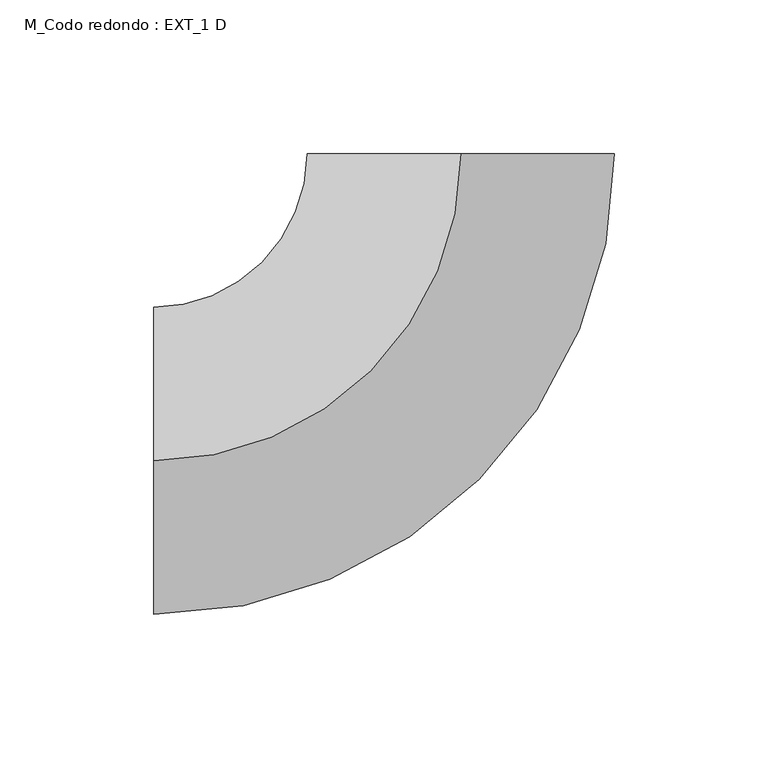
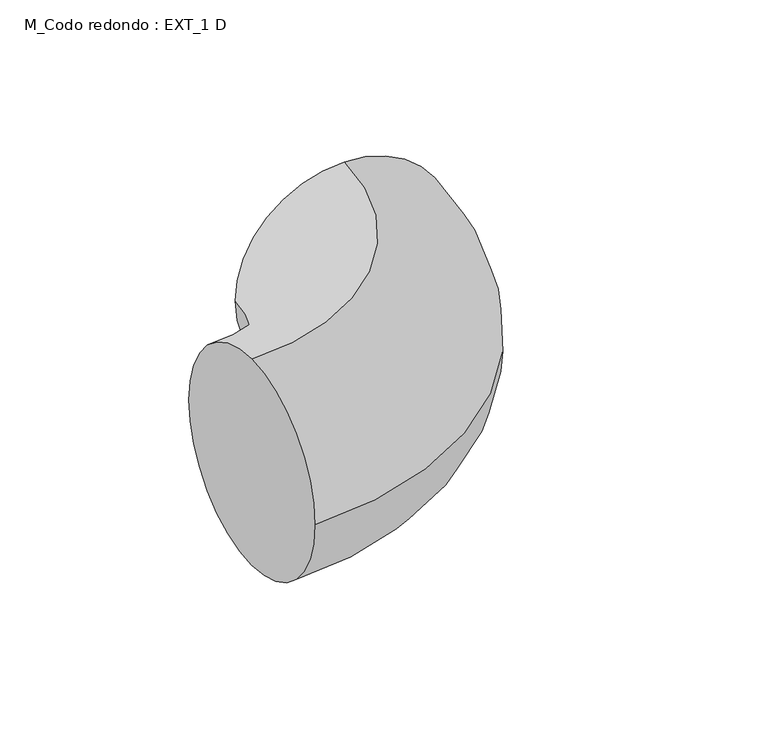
"""IFC4 building model written with IfcOpenShell, lengths in millimetres: duct fitting geometry, M_Codo redondo : EXT_1 D."""

from ifc_helpers import new_model, si_unit, point, frame, origin, place, context, project, spatial, circle_curve, ellipse_curve, trimmed, source, transform, mapped, element, save
from ifc_brep_helpers import plane_surface, revolved_surface, advanced_brep


def m_codo_redondo_ext_1_d_85067ab4(model_context):
    return source(origin(), model_context, "Body", "AdvancedBrep", [
        advanced_brep(
        [(-100.0, 0.0, 50.0), (-100.0, 50.0, 0.0), (-100.0, 0.0, -50.0), (-100.0, -50.0, 0.0), (0.0, 100.0, 50.0), (50.0, 100.0, 0.0), (0.0, 100.0, -50.0), (-50.0, 100.0, 0.0)],
        [
            (0, 1, circle_curve(frame((-100.0, 0.0, 0.0), z_axis=(-1.0, 0.0, 0.0), x_axis=(0.0, 1.0, 0.0)), 50.0)),
            (1, 2, circle_curve(frame((-100.0, 0.0, 0.0), z_axis=(-1.0, 0.0, 0.0), x_axis=(0.0, 1.0, 0.0)), 50.0)),
            (2, 3, circle_curve(frame((-100.0, 0.0, 0.0), z_axis=(-1.0, 0.0, 0.0), x_axis=(0.0, 1.0, 0.0)), 50.0)),
            (3, 0, circle_curve(frame((-100.0, 0.0, 0.0), z_axis=(-1.0, 0.0, 0.0), x_axis=(0.0, 1.0, 0.0)), 50.0)),
            (4, 5, circle_curve(frame((0.0, 100.0, 0.0), z_axis=(0.0, 1.0, 0.0), x_axis=(-1.0, 0.0, 0.0)), 50.0)),
            (5, 6, circle_curve(frame((0.0, 100.0, 0.0), z_axis=(0.0, 1.0, 0.0), x_axis=(-1.0, 0.0, 0.0)), 50.0)),
            (6, 7, circle_curve(frame((0.0, 100.0, 0.0), z_axis=(0.0, 1.0, 0.0), x_axis=(-1.0, 0.0, 0.0)), 50.0)),
            (7, 4, circle_curve(frame((0.0, 100.0, 0.0), z_axis=(0.0, 1.0, 0.0), x_axis=(-1.0, 0.0, 0.0)), 50.0)),
            (7, 1, circle_curve(frame((-100.0, 100.0, 0.0), z_axis=(0.0, 0.0, -1.0), x_axis=(0.0, -1.0, 0.0)), 50.0)),
            (0, 4, circle_curve(frame((-100.0, 100.0, 50.0), z_axis=(0.0, 0.0, 1.0), x_axis=(0.0, -1.0, 0.0)), 100.0)),
            (6, 2, circle_curve(frame((-100.0, 100.0, -50.0), z_axis=(0.0, 0.0, -1.0), x_axis=(0.0, -1.0, 0.0)), 100.0)),
            (5, 3, circle_curve(frame((-100.0, 100.0, 0.0), z_axis=(0.0, 0.0, -1.0), x_axis=(0.0, -1.0, 0.0)), 150.0)),
        ],
        [
            plane_surface(frame((-100.0, 0.0, 0.0), z_axis=(-1.0, 0.0, 0.0), x_axis=(0.0, 0.0, 1.0))),
            plane_surface(frame((0.0, 100.0, 0.0), z_axis=(0.0, 1.0, 0.0), x_axis=(0.0, 0.0, 1.0))),
            revolved_surface(trimmed(ellipse_curve(frame((-100.0, 0.0, 0.0), z_axis=(-1.0, 0.0, 0.0), x_axis=(0.0, 1.0, 0.0)), 50.0, 50.0), [point((-100.0, 0.0, 50.0))], [point((-100.0, 50.0, 0.0))], True, "CARTESIAN"), (-100.0, 100.0, 0.0), (0.0, 0.0, 1.0)),
            revolved_surface(trimmed(ellipse_curve(frame((-100.0, 0.0, 0.0), z_axis=(-1.0, 0.0, 0.0), x_axis=(0.0, 1.0, 0.0)), 50.0, 50.0), [point((-100.0, 50.0, 0.0))], [point((-100.0, 0.0, -50.0))], True, "CARTESIAN"), (-100.0, 100.0, 0.0), (0.0, 0.0, 1.0)),
            revolved_surface(trimmed(ellipse_curve(frame((-100.0, 0.0, 0.0), z_axis=(-1.0, 0.0, 0.0), x_axis=(0.0, 1.0, 0.0)), 50.0, 50.0), [point((-100.0, 0.0, -50.0))], [point((-100.0, -50.0, 0.0))], True, "CARTESIAN"), (-100.0, 100.0, 0.0), (0.0, 0.0, 1.0)),
            revolved_surface(trimmed(ellipse_curve(frame((-100.0, 0.0, 0.0), z_axis=(-1.0, 0.0, 0.0), x_axis=(0.0, 1.0, 0.0)), 50.0, 50.0), [point((-100.0, -50.0, 0.0))], [point((-100.0, 0.0, 50.0))], True, "CARTESIAN"), (-100.0, 100.0, 0.0), (0.0, 0.0, 1.0)),
        ],
        [
            (0, [[1, 2, 3, 4]]),
            (1, [[5, 6, 7, 8]]),
            (2, [[9, -1, 10, -8]]),
            (3, [[11, -2, -9, -7]]),
            (4, [[12, -3, -11, -6]]),
            (5, [[-10, -4, -12, -5]]),
        ],
    ),
    ])


if __name__ == "__main__":
    model = new_model("IFC4")
    model_context = context("Model", 3, world=origin())
    ifc_project = project(units=[si_unit("LENGTHUNIT", "METRE", prefix="MILLI")], contexts=[model_context])
    site = spatial("IfcSite", under=ifc_project)
    building = spatial("IfcBuilding", under=site)
    placement = place(None, origin())
    m_codo_redondo_ext_1_d_shape = m_codo_redondo_ext_1_d_85067ab4(model_context)
    element("IfcDuctFitting", 1, ObjectType="M_Codo redondo : EXT_1 D", at=placement, inside=building, context=model_context, shape_type="MappedRepresentation", body=[
        mapped(m_codo_redondo_ext_1_d_shape, transform((0.0, 0.0, 0.0), x_axis=(1.0, 0.0, 0.0), y_axis=(0.0, 1.0, 0.0), z_axis=(0.0, 0.0, 1.0))),
    ])
    save(model, "model.ifc")
